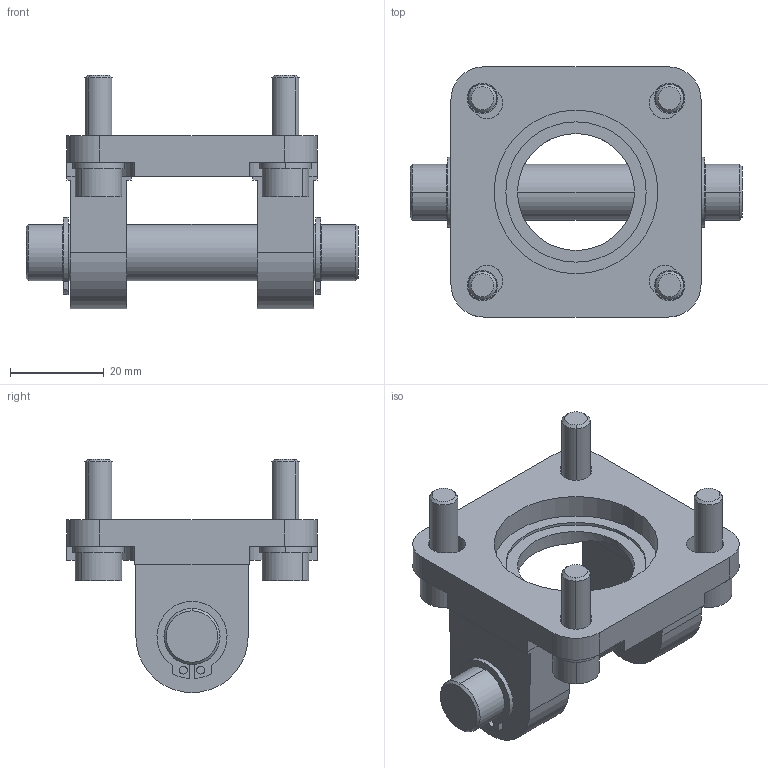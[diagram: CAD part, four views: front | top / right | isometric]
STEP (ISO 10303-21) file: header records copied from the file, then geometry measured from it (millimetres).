
FILE_DESCRIPTION((''),'2;1');
FILE_NAME('3672904000','2019-11-05T',('hug2hc'),(''),'CREO PARAMETRIC BY PTC INC, 2016260','CREO PARAMETRIC BY PTC INC, 2016260','');
FILE_SCHEMA(('CONFIG_CONTROL_DESIGN'));
Length unit declared in the file: millimetre
Products named in the file (1): 3672904000
Bounding box: 71 x 53.5 x 49.9 mm (x, y, z)
Volume: 39106.8 mm3; surface area: 16061.3 mm2
Topology: 1 solids, 1 shells, 223 faces, 556 edges, 364 vertices
Faces by surface type: plane 121, cylinder 90, cone 12
Entity records: 6815 total; most frequent: CARTESIAN_POINT 1213, DIRECTION 1204, ORIENTED_EDGE 1112, EDGE_CURVE 556, AXIS2_PLACEMENT_3D 429, VERTEX_POINT 364, VECTOR 346, LINE 346
